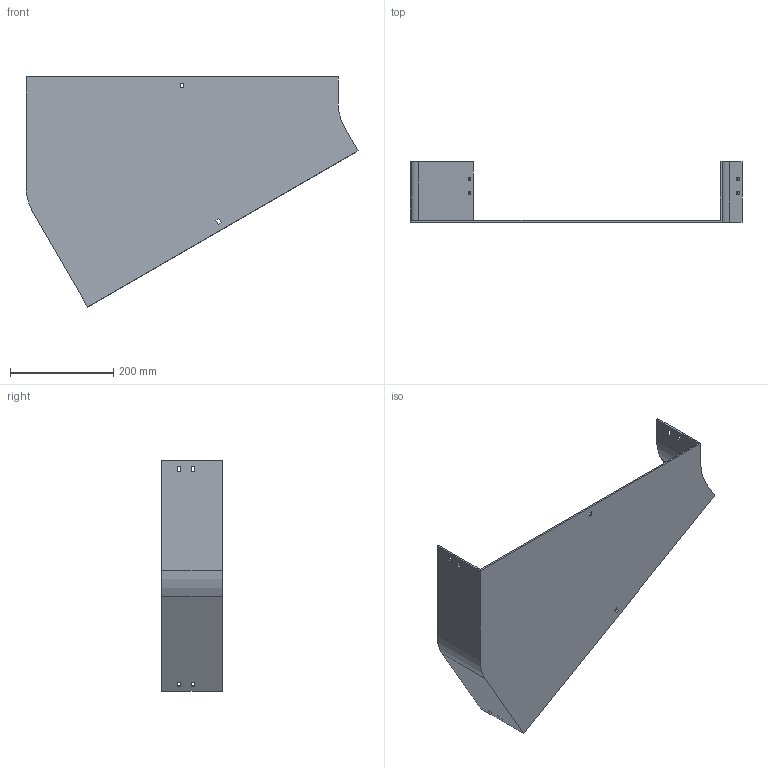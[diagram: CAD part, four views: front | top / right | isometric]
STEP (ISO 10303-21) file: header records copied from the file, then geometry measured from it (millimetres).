
FILE_DESCRIPTION (( 'STEP AP214' ), '1' );
FILE_NAME ('12B1J600.step', '2025-02-21T09:34:11', ( '' ), ( '' ), 'SwSTEP 2.0', 'SolidWorks 2023', '' );
FILE_SCHEMA (( 'AUTOMOTIVE_DESIGN' ));
Length unit declared in the file: millimetre
Products named in the file (1): 12B1J600
Bounding box: 642.4 x 117.5 x 445.3 mm (x, y, z)
Volume: 915184.5 mm3; surface area: 532155 mm2
Topology: 1 solids, 1 shells, 58 faces, 168 edges, 112 vertices
Faces by surface type: plane 54, cylinder 4
Entity records: 1943 total; most frequent: CARTESIAN_POINT 339, ORIENTED_EDGE 336, DIRECTION 294, EDGE_CURVE 168, VECTOR 160, LINE 160, VERTEX_POINT 112, EDGE_LOOP 78
